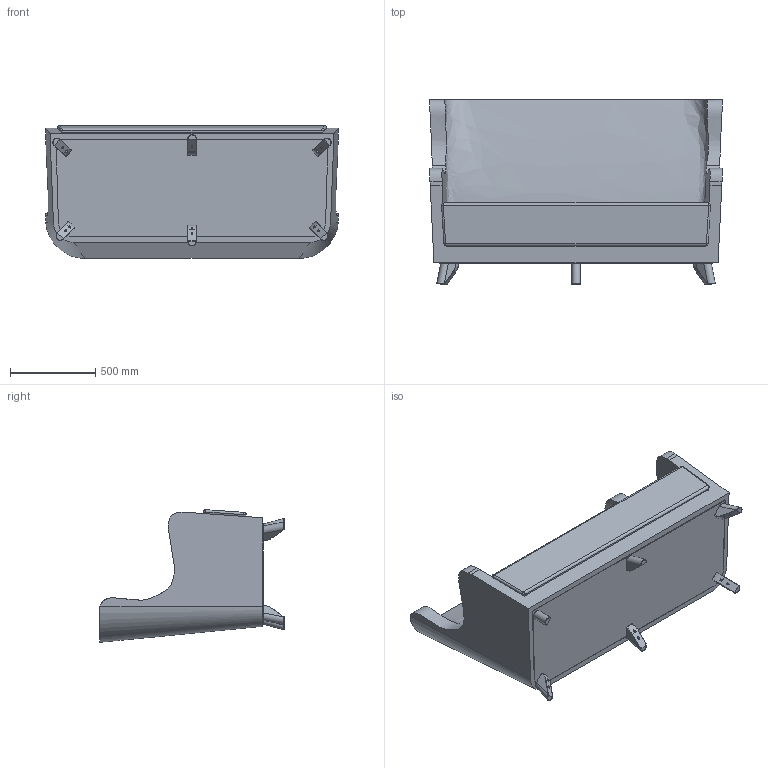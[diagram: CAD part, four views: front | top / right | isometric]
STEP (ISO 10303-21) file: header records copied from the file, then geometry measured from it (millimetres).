
FILE_DESCRIPTION(/* description */ (''),/* implementation_level */ '2;1');
FILE_NAME(/* name */ 'S:\DRAWINGS\DRAWING OFFICE ONLY\WIP\1306 Purl 3-Seater\1PU-0004 - Purl Plus High Back 3-Seater Anti-Stash\1PU-0004 - SIMPLIFIED\1PU-0004 - Purl Plus High Back 3 Seater Anti Stash - Simplify.stp',/* time_stamp */ '2025-09-24T14:51:54+01:00',/* author */ ('Mark.Glazzard'),/* organization */ (''),/* preprocessor_version */ 'ST-DEVELOPER v18.1',/* originating_system */ 'Autodesk Inventor 2022',/* authorisation */ '');
FILE_SCHEMA (('AUTOMOTIVE_DESIGN { 1 0 10303 214 3 1 1 }'));
Length unit declared in the file: inch
Products named in the file (1): 1PU-0004 - Purl Plus High Back 3 Seater Anti Stash - Simplify
Bounding box: 1720.89 x 1083 x 779.79 mm (x, y, z)
Volume: 573889300.7 mm3; surface area: 11121982 mm2
Topology: 9 solids, 9 shells, 226 faces, 555 edges, 313 vertices
Faces by surface type: cylinder 76, bspline 61, plane 53, sphere 24, torus 12
Full cylindrical faces by diameter (mm): 10 x12
Entity records: 13140 total; most frequent: CARTESIAN_POINT 7940, ORIENTED_EDGE 1054, DIRECTION 1010, EDGE_CURVE 527, AXIS2_PLACEMENT_3D 415, VERTEX_POINT 313, EDGE_LOOP 244, STYLED_ITEM 235
